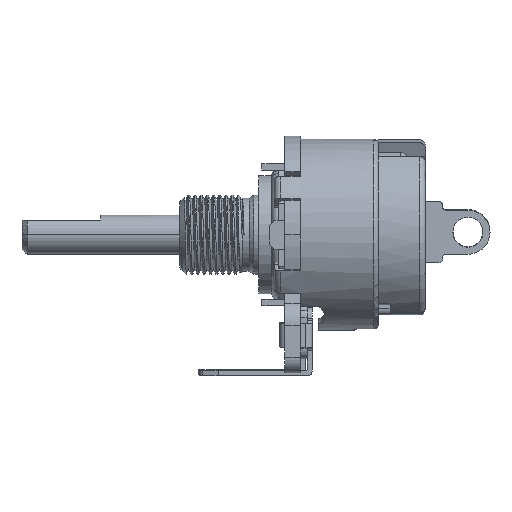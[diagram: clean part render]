
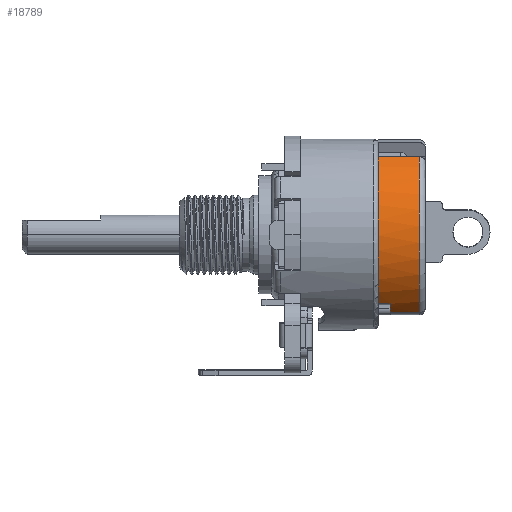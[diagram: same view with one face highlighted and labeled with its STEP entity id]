
A CAD part, left-side view. The second image highlights one B-rep face of the part: STEP entity #18789.
In plain terms, the highlighted cylindrical face has radius 7.671 mm (diameter 15.342 mm), a partial arc.
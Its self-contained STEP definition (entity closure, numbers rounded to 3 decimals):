
#843 = DIRECTION ( 'NONE',  ( 0., 0., 1. ) ) ;
#1142 = CARTESIAN_POINT ( 'NONE',  ( -4.401, 6.283, -0.51 ) ) ;
#1717 = VERTEX_POINT ( 'NONE', #41697 ) ;
#2127 = ORIENTED_EDGE ( 'NONE', *, *, #16349, .T. ) ;
#2246 = DIRECTION ( 'NONE',  ( 0., 0., 1. ) ) ;
#2727 = VERTEX_POINT ( 'NONE', #2752 ) ;
#2752 = CARTESIAN_POINT ( 'NONE',  ( -5.28, -5.564, -3.81 ) ) ;
#2951 = EDGE_CURVE ( 'NONE', #24190, #10473, #3458, .T. ) ;
#3458 = CIRCLE ( 'NONE', #35373, 7.671 ) ;
#3733 = DIRECTION ( 'NONE',  ( 0., 0., -1. ) ) ;
#3853 = LINE ( 'NONE', #14291, #15943 ) ;
#4781 = EDGE_CURVE ( 'NONE', #31909, #10473, #31968, .T. ) ;
#5205 = AXIS2_PLACEMENT_3D ( 'NONE', #23163, #2246, #26546 ) ;
#6567 = CARTESIAN_POINT ( 'NONE',  ( 0., 0., -3.81 ) ) ;
#10473 = VERTEX_POINT ( 'NONE', #1142 ) ;
#11086 = CARTESIAN_POINT ( 'NONE',  ( -4.426, -6.265, -0.51 ) ) ;
#13161 = CARTESIAN_POINT ( 'NONE',  ( 0., 0., -3.81 ) ) ;
#13235 = AXIS2_PLACEMENT_3D ( 'NONE', #6567, #20440, #34284 ) ;
#14291 = CARTESIAN_POINT ( 'NONE',  ( -4.426, -6.265, -3.81 ) ) ;
#15943 = VECTOR ( 'NONE', #35411, 1000. ) ;
#16349 = EDGE_CURVE ( 'NONE', #41987, #1717, #38587, .T. ) ;
#16573 = ORIENTED_EDGE ( 'NONE', *, *, #4781, .F. ) ;
#17360 = LINE ( 'NONE', #31215, #40553 ) ;
#18789 = ADVANCED_FACE ( 'NONE', ( #19527 ), #23422, .T. ) ;
#18818 = CARTESIAN_POINT ( 'NONE',  ( 0., 0., -0.51 ) ) ;
#19284 = DIRECTION ( 'NONE',  ( 1., 0., 0. ) ) ;
#19527 = FACE_OUTER_BOUND ( 'NONE', #32053, .T. ) ;
#20247 = EDGE_CURVE ( 'NONE', #1717, #24190, #3853, .T. ) ;
#20440 = DIRECTION ( 'NONE',  ( 0., 0., 1. ) ) ;
#21195 = ORIENTED_EDGE ( 'NONE', *, *, #35583, .F. ) ;
#21357 = CARTESIAN_POINT ( 'NONE',  ( -4.401, 6.283, -3.81 ) ) ;
#23163 = CARTESIAN_POINT ( 'NONE',  ( 0., 0., -2.845 ) ) ;
#23422 = CYLINDRICAL_SURFACE ( 'NONE', #39921, 7.671 ) ;
#24190 = VERTEX_POINT ( 'NONE', #11086 ) ;
#24748 = ORIENTED_EDGE ( 'NONE', *, *, #33020, .T. ) ;
#26546 = DIRECTION ( 'NONE',  ( -1., 0., 0. ) ) ;
#30206 = DIRECTION ( 'NONE',  ( 0., 0., 1. ) ) ;
#31215 = CARTESIAN_POINT ( 'NONE',  ( -5.28, -5.564, -2.845 ) ) ;
#31909 = VERTEX_POINT ( 'NONE', #21357 ) ;
#31968 = LINE ( 'NONE', #35611, #38305 ) ;
#32053 = EDGE_LOOP ( 'NONE', ( #21195, #2127, #35881, #33466, #16573, #24748 ) ) ;
#32091 = CIRCLE ( 'NONE', #13235, 7.671 ) ;
#33020 = EDGE_CURVE ( 'NONE', #31909, #2727, #32091, .T. ) ;
#33393 = DIRECTION ( 'NONE',  ( 1., 0., 0. ) ) ;
#33466 = ORIENTED_EDGE ( 'NONE', *, *, #2951, .T. ) ;
#34278 = CARTESIAN_POINT ( 'NONE',  ( -5.28, -5.564, -2.845 ) ) ;
#34284 = DIRECTION ( 'NONE',  ( 1., 0., 0. ) ) ;
#35373 = AXIS2_PLACEMENT_3D ( 'NONE', #18818, #36088, #19284 ) ;
#35411 = DIRECTION ( 'NONE',  ( 0., 0., 1. ) ) ;
#35583 = EDGE_CURVE ( 'NONE', #41987, #2727, #17360, .T. ) ;
#35611 = CARTESIAN_POINT ( 'NONE',  ( -4.401, 6.283, -3.81 ) ) ;
#35881 = ORIENTED_EDGE ( 'NONE', *, *, #20247, .T. ) ;
#36088 = DIRECTION ( 'NONE',  ( 0., 0., -1. ) ) ;
#38305 = VECTOR ( 'NONE', #843, 1000. ) ;
#38587 = CIRCLE ( 'NONE', #5205, 7.671 ) ;
#39921 = AXIS2_PLACEMENT_3D ( 'NONE', #13161, #30206, #33393 ) ;
#40553 = VECTOR ( 'NONE', #3733, 1000. ) ;
#41697 = CARTESIAN_POINT ( 'NONE',  ( -4.426, -6.265, -2.845 ) ) ;
#41987 = VERTEX_POINT ( 'NONE', #34278 ) ;
